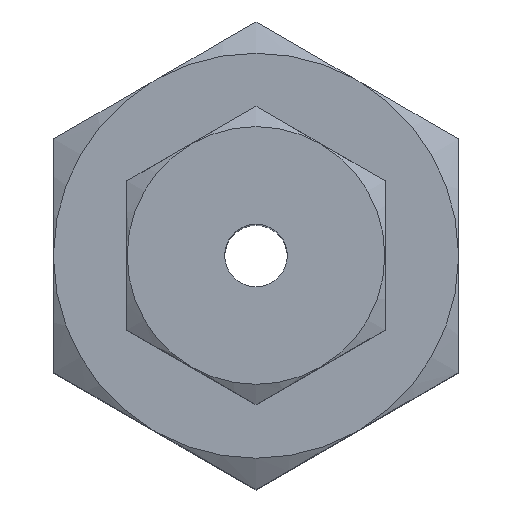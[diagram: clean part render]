
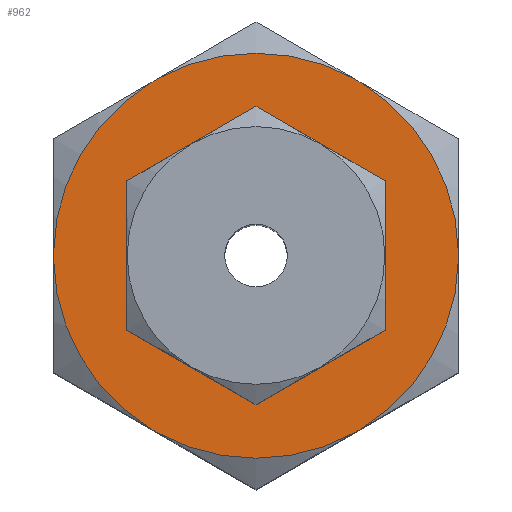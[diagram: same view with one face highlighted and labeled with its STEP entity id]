
A CAD part, top view. The second image highlights one B-rep face of the part: STEP entity #962.
In plain terms, the highlighted planar face has unit normal (0, 0, 1).
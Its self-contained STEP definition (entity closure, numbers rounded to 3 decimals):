
#5 = DIRECTION ( 'NONE',  ( 0., 1., 0. ) ) ;
#10 = AXIS2_PLACEMENT_3D ( 'NONE', #987, #626, #537 ) ;
#11 = VECTOR ( 'NONE', #388, 1000. ) ;
#16 = CARTESIAN_POINT ( 'NONE',  ( -10.999, 6.35, 15. ) ) ;
#21 = ORIENTED_EDGE ( 'NONE', *, *, #651, .F. ) ;
#25 = DIRECTION ( 'NONE',  ( 0., 1., 0. ) ) ;
#26 = VERTEX_POINT ( 'NONE', #231 ) ;
#35 = CARTESIAN_POINT ( 'NONE',  ( 0., 12.7, 15. ) ) ;
#42 = CIRCLE ( 'NONE', #168, 11. ) ;
#57 = CIRCLE ( 'NONE', #866, 11. ) ;
#58 = ORIENTED_EDGE ( 'NONE', *, *, #228, .F. ) ;
#64 = EDGE_CURVE ( 'NONE', #708, #97, #113, .T. ) ;
#83 = CARTESIAN_POINT ( 'NONE',  ( 5.343, -9.615, 15. ) ) ;
#97 = VERTEX_POINT ( 'NONE', #611 ) ;
#107 = ORIENTED_EDGE ( 'NONE', *, *, #516, .F. ) ;
#109 = CIRCLE ( 'NONE', #882, 4.865 ) ;
#113 = CIRCLE ( 'NONE', #10, 11. ) ;
#134 = ORIENTED_EDGE ( 'NONE', *, *, #955, .F. ) ;
#149 = CIRCLE ( 'NONE', #902, 11. ) ;
#155 = CARTESIAN_POINT ( 'NONE',  ( 0., -4.865, 15. ) ) ;
#168 = AXIS2_PLACEMENT_3D ( 'NONE', #816, #960, #658 ) ;
#185 = VECTOR ( 'NONE', #312, 1000. ) ;
#192 = DIRECTION ( 'NONE',  ( 0., 0., -1. ) ) ;
#201 = CARTESIAN_POINT ( 'NONE',  ( -5.655, 9.435, 15. ) ) ;
#207 = ORIENTED_EDGE ( 'NONE', *, *, #777, .F. ) ;
#220 = CIRCLE ( 'NONE', #349, 11. ) ;
#223 = EDGE_LOOP ( 'NONE', ( #300, #596, #21, #889, #58, #107, #529, #134, #753, #791, #207, #484 ) ) ;
#228 = EDGE_CURVE ( 'NONE', #495, #604, #711, .T. ) ;
#231 = CARTESIAN_POINT ( 'NONE',  ( 5.655, 9.435, 15. ) ) ;
#243 = DIRECTION ( 'NONE',  ( 0., 0., -1. ) ) ;
#251 = ORIENTED_EDGE ( 'NONE', *, *, #842, .T. ) ;
#273 = EDGE_CURVE ( 'NONE', #817, #525, #407, .T. ) ;
#282 = DIRECTION ( 'NONE',  ( 0., 1., 0. ) ) ;
#291 = CARTESIAN_POINT ( 'NONE',  ( 0., 0., 15. ) ) ;
#300 = ORIENTED_EDGE ( 'NONE', *, *, #509, .F. ) ;
#306 = EDGE_CURVE ( 'NONE', #604, #671, #42, .T. ) ;
#312 = DIRECTION ( 'NONE',  ( 0., -1., 0. ) ) ;
#334 = VECTOR ( 'NONE', #554, 1000. ) ;
#336 = VERTEX_POINT ( 'NONE', #517 ) ;
#349 = AXIS2_PLACEMENT_3D ( 'NONE', #874, #192, #25 ) ;
#357 = DIRECTION ( 'NONE',  ( -0.866, -0.5, 0. ) ) ;
#359 = FACE_BOUND ( 'NONE', #668, .T. ) ;
#377 = VERTEX_POINT ( 'NONE', #981 ) ;
#381 = VERTEX_POINT ( 'NONE', #429 ) ;
#386 = CARTESIAN_POINT ( 'NONE',  ( 0., 0., 15. ) ) ;
#387 = EDGE_CURVE ( 'NONE', #864, #817, #220, .T. ) ;
#388 = DIRECTION ( 'NONE',  ( -0.866, 0.5, 0. ) ) ;
#392 = CARTESIAN_POINT ( 'NONE',  ( 10.999, -0.18, 15. ) ) ;
#407 = LINE ( 'NONE', #965, #540 ) ;
#414 = CIRCLE ( 'NONE', #556, 11. ) ;
#419 = EDGE_CURVE ( 'NONE', #26, #336, #149, .T. ) ;
#429 = CARTESIAN_POINT ( 'NONE',  ( -5.655, -9.435, 15. ) ) ;
#432 = DIRECTION ( 'NONE',  ( 0., -1., 0. ) ) ;
#454 = DIRECTION ( 'NONE',  ( 0., 1., 0. ) ) ;
#463 = LINE ( 'NONE', #623, #707 ) ;
#479 = EDGE_CURVE ( 'NONE', #377, #381, #684, .T. ) ;
#484 = ORIENTED_EDGE ( 'NONE', *, *, #419, .F. ) ;
#495 = VERTEX_POINT ( 'NONE', #841 ) ;
#509 = EDGE_CURVE ( 'NONE', #97, #26, #463, .T. ) ;
#516 = EDGE_CURVE ( 'NONE', #381, #495, #414, .T. ) ;
#517 = CARTESIAN_POINT ( 'NONE',  ( 10.999, 0.18, 15. ) ) ;
#525 = VERTEX_POINT ( 'NONE', #83 ) ;
#529 = ORIENTED_EDGE ( 'NONE', *, *, #479, .F. ) ;
#530 = PLANE ( 'NONE',  #898 ) ;
#537 = DIRECTION ( 'NONE',  ( 0., 1., 0. ) ) ;
#540 = VECTOR ( 'NONE', #357, 1000. ) ;
#554 = DIRECTION ( 'NONE',  ( 0., 1., 0. ) ) ;
#556 = AXIS2_PLACEMENT_3D ( 'NONE', #937, #854, #5 ) ;
#588 = FACE_OUTER_BOUND ( 'NONE', #223, .T. ) ;
#596 = ORIENTED_EDGE ( 'NONE', *, *, #64, .F. ) ;
#604 = VERTEX_POINT ( 'NONE', #720 ) ;
#611 = CARTESIAN_POINT ( 'NONE',  ( 5.343, 9.615, 15. ) ) ;
#622 = LINE ( 'NONE', #700, #185 ) ;
#623 = CARTESIAN_POINT ( 'NONE',  ( 10.999, 6.35, 15. ) ) ;
#626 = DIRECTION ( 'NONE',  ( 0., 0., -1. ) ) ;
#635 = VECTOR ( 'NONE', #653, 1000. ) ;
#651 = EDGE_CURVE ( 'NONE', #671, #708, #953, .T. ) ;
#653 = DIRECTION ( 'NONE',  ( 0.866, 0.5, 0. ) ) ;
#658 = DIRECTION ( 'NONE',  ( 0., 1., 0. ) ) ;
#668 = EDGE_LOOP ( 'NONE', ( #251 ) ) ;
#671 = VERTEX_POINT ( 'NONE', #201 ) ;
#684 = LINE ( 'NONE', #767, #11 ) ;
#700 = CARTESIAN_POINT ( 'NONE',  ( 10.999, -6.35, 15. ) ) ;
#707 = VECTOR ( 'NONE', #788, 1000. ) ;
#708 = VERTEX_POINT ( 'NONE', #810 ) ;
#711 = LINE ( 'NONE', #16, #334 ) ;
#720 = CARTESIAN_POINT ( 'NONE',  ( -10.999, 0.18, 15. ) ) ;
#753 = ORIENTED_EDGE ( 'NONE', *, *, #273, .F. ) ;
#758 = CARTESIAN_POINT ( 'NONE',  ( 0., 0., 15. ) ) ;
#761 = VERTEX_POINT ( 'NONE', #155 ) ;
#762 = CARTESIAN_POINT ( 'NONE',  ( 5.655, -9.435, 15. ) ) ;
#767 = CARTESIAN_POINT ( 'NONE',  ( -10.999, -6.35, 15. ) ) ;
#777 = EDGE_CURVE ( 'NONE', #336, #864, #622, .T. ) ;
#788 = DIRECTION ( 'NONE',  ( 0.866, -0.5, 0. ) ) ;
#791 = ORIENTED_EDGE ( 'NONE', *, *, #387, .F. ) ;
#810 = CARTESIAN_POINT ( 'NONE',  ( -5.343, 9.615, 15. ) ) ;
#816 = CARTESIAN_POINT ( 'NONE',  ( 0., 0., 15. ) ) ;
#817 = VERTEX_POINT ( 'NONE', #762 ) ;
#841 = CARTESIAN_POINT ( 'NONE',  ( -10.999, -0.18, 15. ) ) ;
#842 = EDGE_CURVE ( 'NONE', #761, #761, #109, .T. ) ;
#854 = DIRECTION ( 'NONE',  ( 0., 0., -1. ) ) ;
#864 = VERTEX_POINT ( 'NONE', #392 ) ;
#866 = AXIS2_PLACEMENT_3D ( 'NONE', #291, #899, #282 ) ;
#874 = CARTESIAN_POINT ( 'NONE',  ( 0., 0., 15. ) ) ;
#882 = AXIS2_PLACEMENT_3D ( 'NONE', #386, #243, #998 ) ;
#889 = ORIENTED_EDGE ( 'NONE', *, *, #306, .F. ) ;
#894 = DIRECTION ( 'NONE',  ( 0., 0., 1. ) ) ;
#898 = AXIS2_PLACEMENT_3D ( 'NONE', #979, #894, #432 ) ;
#899 = DIRECTION ( 'NONE',  ( 0., 0., -1. ) ) ;
#902 = AXIS2_PLACEMENT_3D ( 'NONE', #758, #910, #454 ) ;
#910 = DIRECTION ( 'NONE',  ( 0., 0., -1. ) ) ;
#937 = CARTESIAN_POINT ( 'NONE',  ( 0., 0., 15. ) ) ;
#953 = LINE ( 'NONE', #35, #635 ) ;
#955 = EDGE_CURVE ( 'NONE', #525, #377, #57, .T. ) ;
#960 = DIRECTION ( 'NONE',  ( 0., 0., -1. ) ) ;
#962 = ADVANCED_FACE ( 'NONE', ( #588, #359 ), #530, .T. ) ;
#965 = CARTESIAN_POINT ( 'NONE',  ( 0., -12.7, 15. ) ) ;
#979 = CARTESIAN_POINT ( 'NONE',  ( 0., 0., 15. ) ) ;
#981 = CARTESIAN_POINT ( 'NONE',  ( -5.343, -9.615, 15. ) ) ;
#987 = CARTESIAN_POINT ( 'NONE',  ( 0., 0., 15. ) ) ;
#998 = DIRECTION ( 'NONE',  ( 0., -1., 0. ) ) ;
